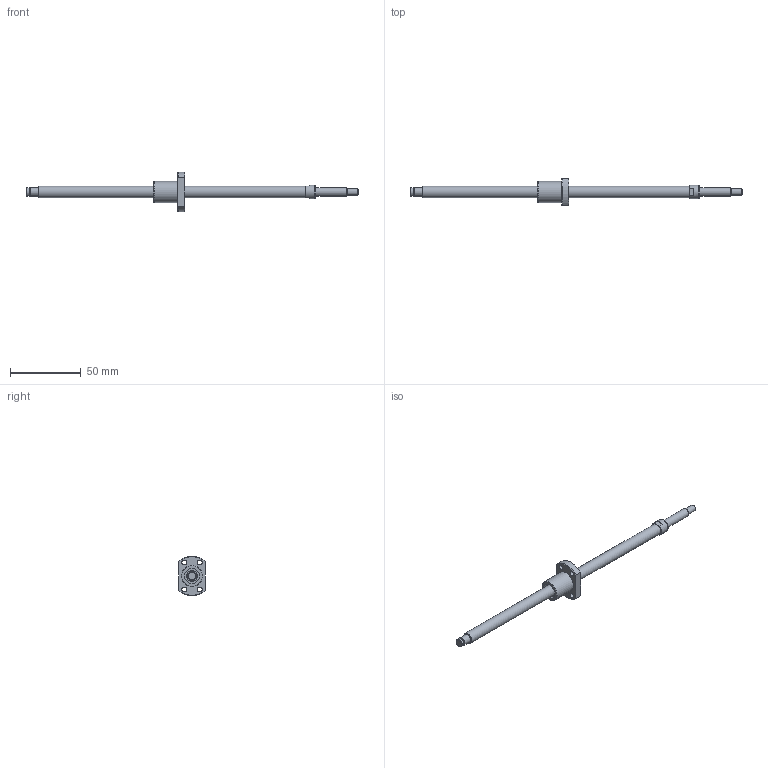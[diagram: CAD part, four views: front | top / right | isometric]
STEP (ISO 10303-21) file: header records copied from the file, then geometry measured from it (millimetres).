
FILE_DESCRIPTION(/* description */ ('STEP AP203'),/* implementation_level */ '2;1');
FILE_NAME(/* name */ 'BNK0802-3RRG0+235LC5Y(103.5)',/* time_stamp */ '2024-07-09T08:47:27+02:00',/* author */ ('License CC BY-ND 4.0'),/* organization */ ('CADENAS'),/* preprocessor_version */ 'ST-DEVELOPER v19.3',/* originating_system */ 'PARTsolutions',/* authorisation */ ' ');
FILE_SCHEMA (('CONFIG_CONTROL_DESIGN'));
Length unit declared in the file: millimetre
Products named in the file (3): BNK0802-3RRG0+235LC5Y(103.5); BNK 0802-3RRG0+235LC5Y Shaft; BNK 0802-3RRG0+235LC5YRR Nut
Assembly tree (2 placements, depth 2):
  BNK0802-3RRG0+235LC5Y(103.5)
    BNK 0802-3RRG0+235LC5Y Shaft
    BNK 0802-3RRG0+235LC5YRR Nut
Bounding box: 235 x 19 x 27.9 mm (x, y, z)
Volume: 14942.5 mm3; surface area: 8626.2 mm2
Topology: 2 solids, 2 shells, 50 faces, 101 edges, 64 vertices
Faces by surface type: plane 21, cylinder 18, cone 9, torus 2
Full cylindrical faces by diameter (mm): 3.4 x4, 4.5 x1, 5.7 x1, 6 x3, 8 x2, 9.5 x1, 11 x2, 14 x1, 15 x1
Entity records: 1295 total; most frequent: DIRECTION 226, CARTESIAN_POINT 217, ORIENTED_EDGE 154, AXIS2_PLACEMENT_3D 104, EDGE_LOOP 92, FACE_BOUND 92, EDGE_CURVE 77, VERTEX_POINT 63
